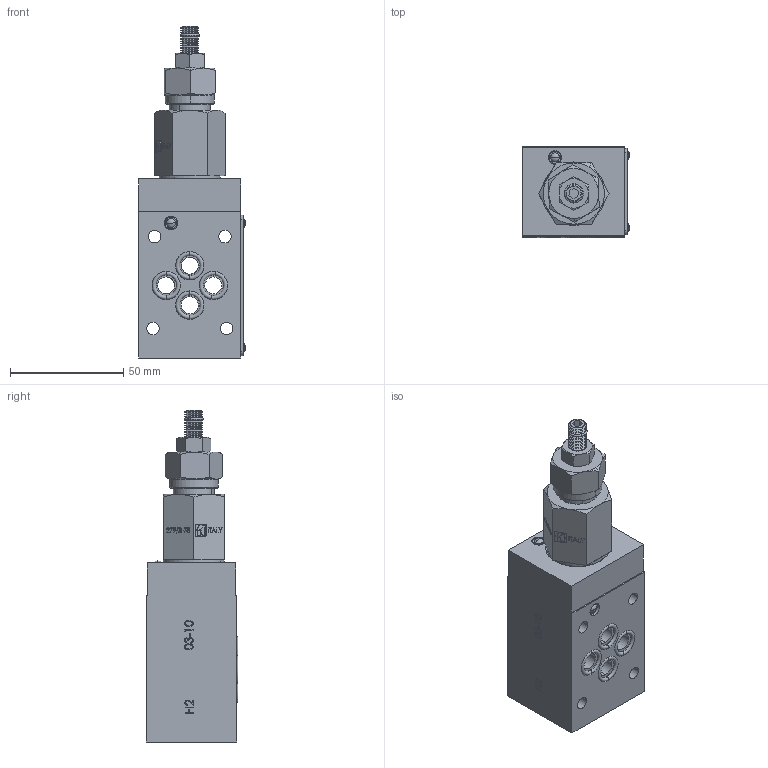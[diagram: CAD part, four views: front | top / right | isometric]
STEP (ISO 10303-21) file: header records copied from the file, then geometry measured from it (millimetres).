
FILE_DESCRIPTION (( 'STEP AP214' ), '1' );
FILE_NAME ('FT379-3-A-03.STEP', '2014-06-18T12:10:17', ( '' ), ( '' ), 'SwSTEP 2.0', 'SolidWorks 2014', '' );
FILE_SCHEMA (( 'AUTOMOTIVE_DESIGN' ));
Length unit declared in the file: millimetre
Products named in the file (21): OR2037; FT379-3-A-03; 279_3-78; Anello sicurezza; OR2050; AnelloFT267_2-38; OR3075; gRANO M8x25 UNI 5923; DADO M8 UNI 5588; MOLLA-10; 279_3047000-78; 279_3034020-78; 279_3034010-78; 279_3019000-78; 279_3011000-34; 279_3012000-34; 279_3101000-78; RivettoTarga; 379-3-A015000; 379-3-A001000; TAPPO KOENING D=6 mm
Assembly tree (28 placements, depth 3):
  FT379-3-A-03
    379-3-A001000
    379-3-A015000
    RivettoTarga  x4
    279_3-78
      279_3101000-78
      279_3012000-34
      279_3011000-34
      279_3019000-78
      279_3034010-78
      279_3034020-78
      279_3047000-78
      MOLLA-10
      DADO M8 UNI 5588
      gRANO M8x25 UNI 5923
      OR3075
      AnelloFT267_2-38  x2
      OR2050
      Anello sicurezza
    OR2037  x4
    TAPPO KOENING D=6 mm  x2
Bounding box: 46.96 x 40.38 x 146.41 mm (x, y, z)
Volume: 151556.9 mm3; surface area: 53526.3 mm2
Topology: 27 solids, 27 shells, 2327 faces, 5721 edges, 3648 vertices
Faces by surface type: plane 1172, bspline 428, cone 378, cylinder 297, torus 48, sphere 4
Entity records: 105970 total; most frequent: CARTESIAN_POINT 41246, ORIENTED_EDGE 10958, DIRECTION 9008, EDGE_CURVE 5479, VECTOR 3638, LINE 3638, VERTEX_POINT 3511, AXIS2_PLACEMENT_3D 2685
